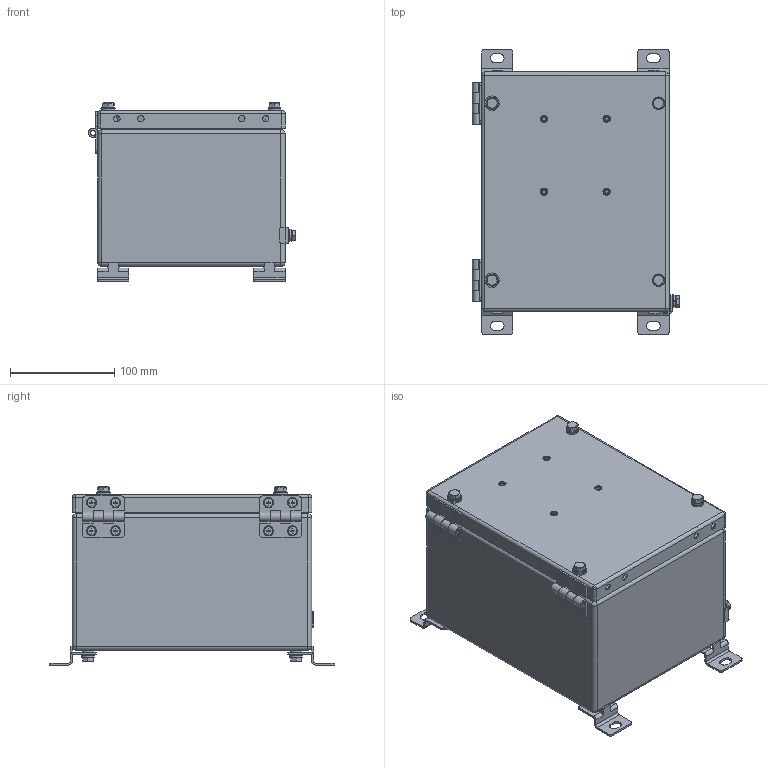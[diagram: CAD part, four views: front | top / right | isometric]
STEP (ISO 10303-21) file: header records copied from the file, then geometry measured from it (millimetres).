
FILE_DESCRIPTION((''),'2;1');
FILE_NAME('\\192.168.5.25\cortem_klient\INVENTOR БАЗА МОДЕЛЕЙ\Актуальная база моделей для отдела продаж\КСРВ-Н\КСРВ-Н231815_М5.stp','2019-04-09T14:08:24',('A.S.Kozlov'),(''),'Autodesk Inventor 2012','Autodesk Inventor 2012','');
FILE_SCHEMA(('CONFIG_CONTROL_DESIGN'));
Length unit declared in the file: millimetre
Products named in the file (1): КСРВ-(параметрическая модель)_Внешний контур_1
Bounding box: 199.19 x 274 x 171.2 mm (x, y, z)
Surface area: 315782.6 mm2 (no closed solid volume)
Topology: 0 solids, 78 shells, 407 faces, 1447 edges, 1047 vertices
Faces by surface type: plane 238, cylinder 152, sphere 12, cone 5
Full cylindrical faces by diameter (mm): 5 x4, 5.9 x4, 6.1 x4, 10 x2, 12 x12, 12.7 x4, 14 x2
Entity records: 16062 total; most frequent: CARTESIAN_POINT 3010, DIRECTION 2672, ORIENTED_EDGE 2135, EDGE_CURVE 1397, VERTEX_POINT 1037, AXIS2_PLACEMENT_3D 951, VECTOR 770, LINE 770
